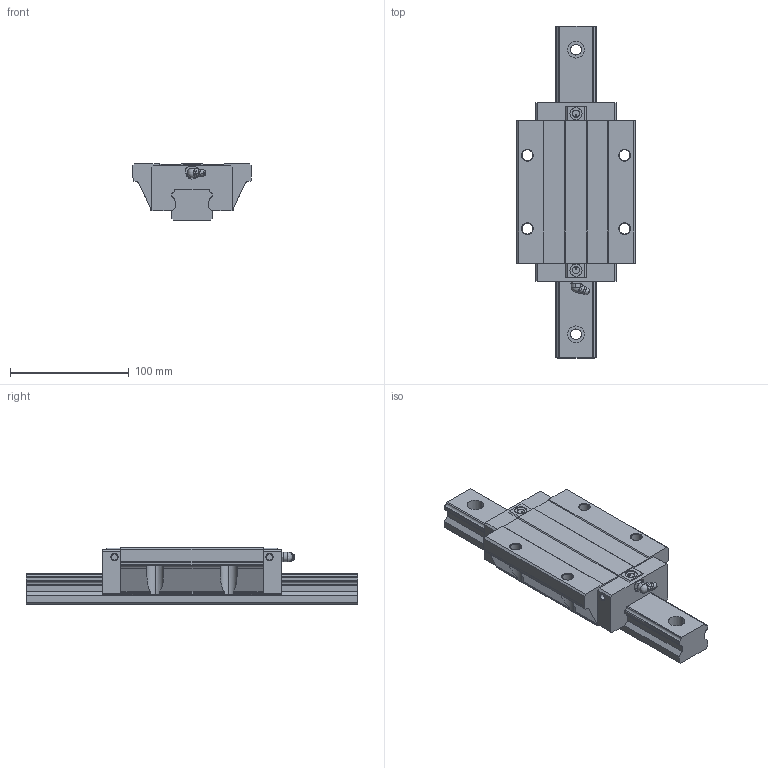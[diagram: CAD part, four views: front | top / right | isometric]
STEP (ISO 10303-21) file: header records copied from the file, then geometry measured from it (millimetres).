
FILE_DESCRIPTION((''),'1');
FILE_NAME(' ',' ',(''),(''),'ACIS Interop R16','Kubotek KeyCreator V6.5.2 (0407)',' ');
FILE_SCHEMA(('CONFIG_CONTROL_DESIGN'));
Length unit declared in the file: millimetre
Products named in the file (3): 1; 2; 3
Bounding box: 100 x 280 x 48 mm (x, y, z)
Volume: 618829.2 mm3; surface area: 91588.4 mm2
Topology: 3 solids, 3 shells, 272 faces, 727 edges, 475 vertices
Faces by surface type: plane 141, cylinder 94, cone 18, torus 10, sphere 7, bspline 2
Entity records: 8864 total; most frequent: CARTESIAN_POINT 1747, DIRECTION 1500, ORIENTED_EDGE 1442, EDGE_CURVE 721, AXIS2_PLACEMENT_3D 534, VERTEX_POINT 475, LINE 432, VECTOR 432
